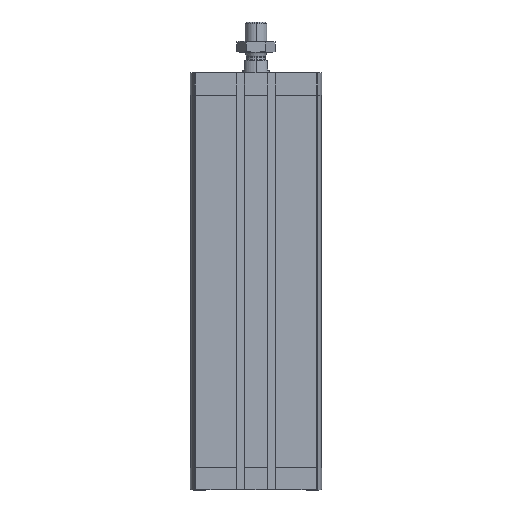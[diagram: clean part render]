
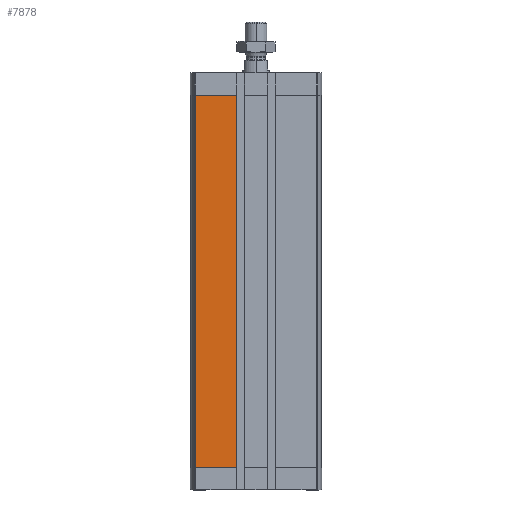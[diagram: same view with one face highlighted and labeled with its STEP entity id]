
A CAD part, left-side view. The second image highlights one B-rep face of the part: STEP entity #7878.
In plain terms, the highlighted planar face has unit normal (-1, 0, 0).
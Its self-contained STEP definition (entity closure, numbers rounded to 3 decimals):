
#658 = ORIENTED_EDGE ( 'NONE', *, *, #2187, .T. ) ;
#1359 = FACE_OUTER_BOUND ( 'NONE', #7938, .T. ) ;
#1865 = EDGE_CURVE ( 'NONE', #5369, #2935, #13775, .T. ) ;
#2187 = EDGE_CURVE ( 'NONE', #13655, #8597, #5825, .T. ) ;
#2534 = VECTOR ( 'NONE', #14257, 1000. ) ;
#2551 = LINE ( 'NONE', #6865, #5841 ) ;
#2851 = CARTESIAN_POINT ( 'NONE',  ( -47.5, 43.743, -16.5 ) ) ;
#2907 = VECTOR ( 'NONE', #11766, 1000. ) ;
#2935 = VERTEX_POINT ( 'NONE', #3265 ) ;
#3134 = CARTESIAN_POINT ( 'NONE',  ( -47.5, 43.743, -287.5 ) ) ;
#3265 = CARTESIAN_POINT ( 'NONE',  ( -47.5, 14.3, -287.5 ) ) ;
#4060 = PLANE ( 'NONE',  #6494 ) ;
#4540 = CARTESIAN_POINT ( 'NONE',  ( -47.5, 43.743, -287.5 ) ) ;
#5289 = EDGE_CURVE ( 'NONE', #8597, #5369, #11977, .T. ) ;
#5369 = VERTEX_POINT ( 'NONE', #4540 ) ;
#5716 = ORIENTED_EDGE ( 'NONE', *, *, #5289, .T. ) ;
#5741 = DIRECTION ( 'NONE',  ( 0., -1., 0. ) ) ;
#5825 = LINE ( 'NONE', #9205, #2534 ) ;
#5841 = VECTOR ( 'NONE', #15530, 1000. ) ;
#6494 = AXIS2_PLACEMENT_3D ( 'NONE', #12731, #13953, #6537 ) ;
#6537 = DIRECTION ( 'NONE',  ( 0., 0., 1. ) ) ;
#6865 = CARTESIAN_POINT ( 'NONE',  ( -47.5, 14.3, -287.5 ) ) ;
#7485 = ORIENTED_EDGE ( 'NONE', *, *, #11039, .T. ) ;
#7563 = VECTOR ( 'NONE', #5741, 1000. ) ;
#7878 = ADVANCED_FACE ( 'NONE', ( #1359 ), #4060, .T. ) ;
#7938 = EDGE_LOOP ( 'NONE', ( #15533, #7485, #658, #5716 ) ) ;
#8597 = VERTEX_POINT ( 'NONE', #2851 ) ;
#9205 = CARTESIAN_POINT ( 'NONE',  ( -47.5, 0., -16.5 ) ) ;
#11039 = EDGE_CURVE ( 'NONE', #2935, #13655, #2551, .T. ) ;
#11766 = DIRECTION ( 'NONE',  ( 0., 0., -1. ) ) ;
#11977 = LINE ( 'NONE', #3134, #2907 ) ;
#12731 = CARTESIAN_POINT ( 'NONE',  ( -47.5, 43.743, -287.5 ) ) ;
#13655 = VERTEX_POINT ( 'NONE', #13671 ) ;
#13671 = CARTESIAN_POINT ( 'NONE',  ( -47.5, 14.3, -16.5 ) ) ;
#13775 = LINE ( 'NONE', #14394, #7563 ) ;
#13953 = DIRECTION ( 'NONE',  ( -1., 0., 0. ) ) ;
#14257 = DIRECTION ( 'NONE',  ( 0., 1., 0. ) ) ;
#14394 = CARTESIAN_POINT ( 'NONE',  ( -47.5, 43.743, -287.5 ) ) ;
#15530 = DIRECTION ( 'NONE',  ( 0., 0., 1. ) ) ;
#15533 = ORIENTED_EDGE ( 'NONE', *, *, #1865, .T. ) ;
